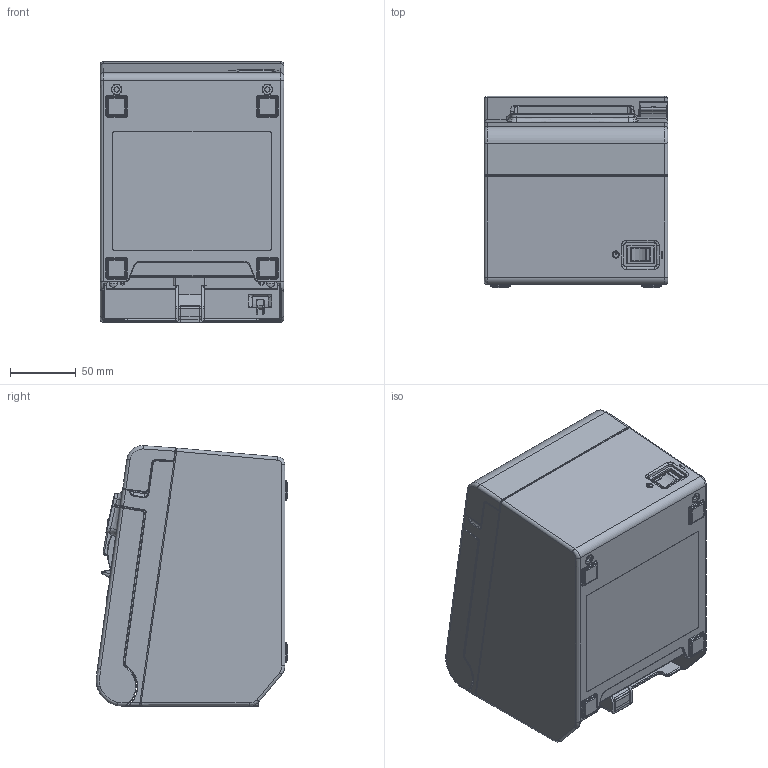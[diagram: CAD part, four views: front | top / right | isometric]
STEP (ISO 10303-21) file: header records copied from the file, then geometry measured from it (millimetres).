
FILE_DESCRIPTION((''),'2;1');
FILE_NAME('TM-T800F_SW','2025-01-28T14:26:27',('5012938'),(''),'CREO PARAMETRIC BY PTC INC, 2022281','CREO PARAMETRIC BY PTC INC, 2022281','');
FILE_SCHEMA(('AUTOMOTIVE_DESIGN { 1 0 10303 214 1 1 1 1 }'));
Products named in the file (1): TM-T800F_SW
Bounding box: 140 x 146.11 x 198.7 mm (x, y, z)
Surface area: 436247.8 mm2 (no closed solid volume)
Topology: 0 solids, 53 shells, 4058 faces, 11899 edges, 7799 vertices
Faces by surface type: plane 2270, cylinder 1219, bspline 294, torus 114, cone 113, sphere 37, extrusion 11
Entity records: 176681 total; most frequent: CARTESIAN_POINT 71261, ORIENTED_EDGE 22200, DIRECTION 20650, EDGE_CURVE 11887, VECTOR 8140, LINE 8129, VERTEX_POINT 7799, AXIS2_PLACEMENT_3D 6255
